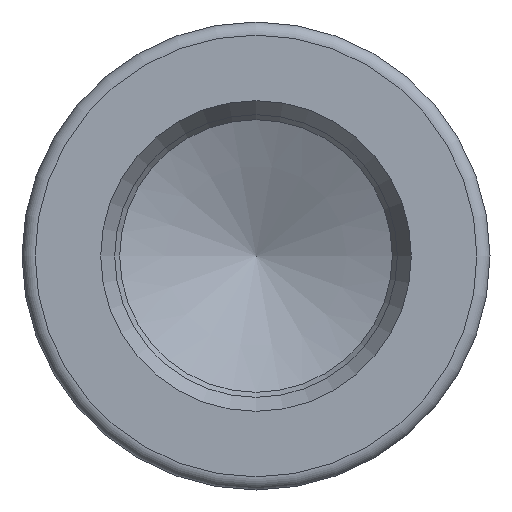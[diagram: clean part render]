
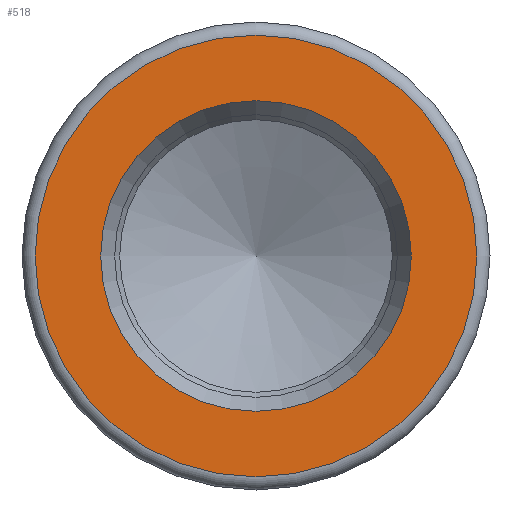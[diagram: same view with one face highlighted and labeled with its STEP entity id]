
A CAD part, left-side view. The second image highlights one B-rep face of the part: STEP entity #518.
In plain terms, the highlighted planar face has unit normal (-1, 0, 0).
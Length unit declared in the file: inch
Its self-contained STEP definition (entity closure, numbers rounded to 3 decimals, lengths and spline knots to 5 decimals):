
#37=FACE_BOUND('',#95,.T.);
#41=PLANE('',#571);
#63=FACE_OUTER_BOUND('',#94,.T.);
#94=EDGE_LOOP('',(#371));
#95=EDGE_LOOP('',(#372));
#130=CIRCLE('',#570,0.41428);
#131=CIRCLE('',#572,0.589);
#225=VERTEX_POINT('',#832);
#226=VERTEX_POINT('',#836);
#282=EDGE_CURVE('',#225,#225,#130,.T.);
#283=EDGE_CURVE('',#226,#226,#131,.T.);
#371=ORIENTED_EDGE('',*,*,#283,.F.);
#372=ORIENTED_EDGE('',*,*,#282,.T.);
#518=ADVANCED_FACE('',(#63,#37),#41,.F.);
#570=AXIS2_PLACEMENT_3D('',#834,#660,#661);
#571=AXIS2_PLACEMENT_3D('',#835,#662,#663);
#572=AXIS2_PLACEMENT_3D('',#837,#664,#665);
#660=DIRECTION('center_axis',(1.,0.,0.));
#661=DIRECTION('ref_axis',(0.,-1.,0.));
#662=DIRECTION('center_axis',(1.,0.,0.));
#663=DIRECTION('ref_axis',(0.,0.,-1.));
#664=DIRECTION('center_axis',(1.,0.,0.));
#665=DIRECTION('ref_axis',(0.,1.,0.));
#832=CARTESIAN_POINT('',(0.,-0.41428,0.));
#834=CARTESIAN_POINT('Origin',(0.,0.,0.));
#835=CARTESIAN_POINT('Origin',(0.,0.,0.));
#836=CARTESIAN_POINT('',(0.,0.,0.589));
#837=CARTESIAN_POINT('Origin',(0.,0.,0.));
